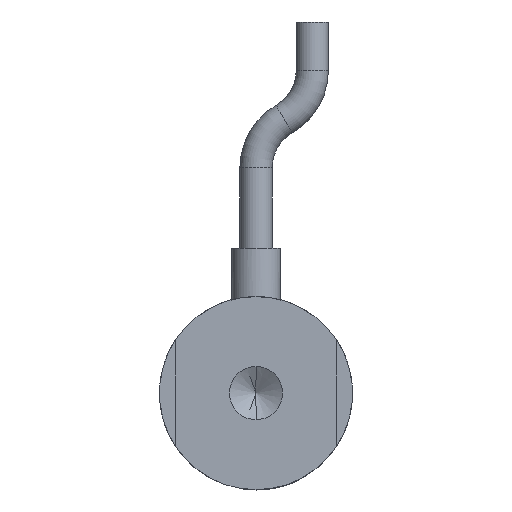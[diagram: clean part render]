
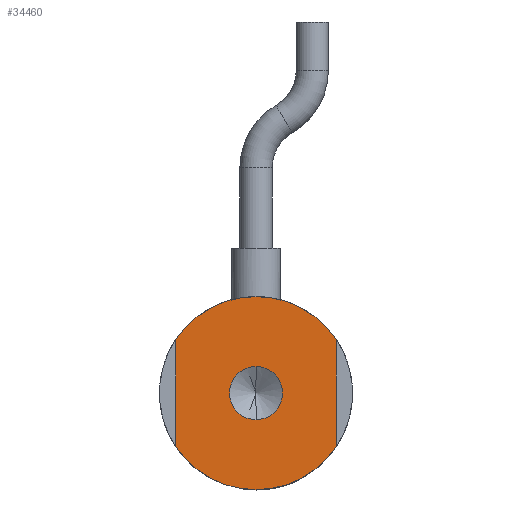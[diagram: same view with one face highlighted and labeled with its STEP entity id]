
A CAD part, front view. The second image highlights one B-rep face of the part: STEP entity #34460.
In plain terms, the highlighted planar face has unit normal (0, -1, 0).
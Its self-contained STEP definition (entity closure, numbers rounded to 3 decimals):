
#893 = ORIENTED_EDGE ( 'NONE', *, *, #31964, .F. ) ;
#1445 = CARTESIAN_POINT ( 'NONE',  ( 0., 0., -6. ) ) ;
#1521 = CARTESIAN_POINT ( 'NONE',  ( 0., 0., 0. ) ) ;
#1752 = EDGE_CURVE ( 'NONE', #18243, #19572, #14003, .T. ) ;
#3047 = VERTEX_POINT ( 'NONE', #14214 ) ;
#3214 = DIRECTION ( 'NONE',  ( 0., 0., 1. ) ) ;
#3215 = DIRECTION ( 'NONE',  ( 0., 1., 0. ) ) ;
#3275 = VERTEX_POINT ( 'NONE', #29543 ) ;
#4777 = DIRECTION ( 'NONE',  ( 0., 1., 0. ) ) ;
#4853 = CARTESIAN_POINT ( 'NONE',  ( 0., 0., 6. ) ) ;
#4996 = DIRECTION ( 'NONE',  ( 0., 0., 1. ) ) ;
#5213 = ORIENTED_EDGE ( 'NONE', *, *, #17615, .F. ) ;
#5245 = CARTESIAN_POINT ( 'NONE',  ( 0., 0., 0. ) ) ;
#5251 = CIRCLE ( 'NONE', #33373, 1.65 ) ;
#6257 = CIRCLE ( 'NONE', #9792, 6. ) ;
#7699 = LINE ( 'NONE', #44505, #16872 ) ;
#7896 = ORIENTED_EDGE ( 'NONE', *, *, #44739, .F. ) ;
#7986 = CARTESIAN_POINT ( 'NONE',  ( 0., 0., 0. ) ) ;
#8064 = CARTESIAN_POINT ( 'NONE',  ( 0., 0., 0. ) ) ;
#8200 = FACE_BOUND ( 'NONE', #36581, .T. ) ;
#8252 = AXIS2_PLACEMENT_3D ( 'NONE', #23835, #3215, #27284 ) ;
#8533 = CIRCLE ( 'NONE', #8252, 6. ) ;
#8723 = PLANE ( 'NONE',  #19308 ) ;
#8854 = CARTESIAN_POINT ( 'NONE',  ( 5., 0., 3.317 ) ) ;
#8911 = AXIS2_PLACEMENT_3D ( 'NONE', #7986, #32077, #11462 ) ;
#9792 = AXIS2_PLACEMENT_3D ( 'NONE', #1521, #25578, #4996 ) ;
#11078 = CIRCLE ( 'NONE', #8911, 6. ) ;
#11462 = DIRECTION ( 'NONE',  ( 0., 0., 1. ) ) ;
#11538 = DIRECTION ( 'NONE',  ( 0., 0., -1. ) ) ;
#12192 = DIRECTION ( 'NONE',  ( 0., 0., 1. ) ) ;
#14003 = CIRCLE ( 'NONE', #37281, 6. ) ;
#14214 = CARTESIAN_POINT ( 'NONE',  ( -5., 0., 3.317 ) ) ;
#15551 = CARTESIAN_POINT ( 'NONE',  ( 0., 0., 1.65 ) ) ;
#16299 = LINE ( 'NONE', #43951, #37894 ) ;
#16872 = VECTOR ( 'NONE', #3214, 1000. ) ;
#17177 = CARTESIAN_POINT ( 'NONE',  ( 0., 0., -1.65 ) ) ;
#17367 = FACE_OUTER_BOUND ( 'NONE', #32281, .T. ) ;
#17615 = EDGE_CURVE ( 'NONE', #19572, #3047, #7699, .T. ) ;
#18243 = VERTEX_POINT ( 'NONE', #1445 ) ;
#19181 = CARTESIAN_POINT ( 'NONE',  ( 0., 0., 0. ) ) ;
#19308 = AXIS2_PLACEMENT_3D ( 'NONE', #5245, #32173, #12192 ) ;
#19572 = VERTEX_POINT ( 'NONE', #33658 ) ;
#21576 = CIRCLE ( 'NONE', #38973, 1.65 ) ;
#22654 = DIRECTION ( 'NONE',  ( 0., 0., -1. ) ) ;
#23283 = DIRECTION ( 'NONE',  ( 0., 0., -1. ) ) ;
#23835 = CARTESIAN_POINT ( 'NONE',  ( 0., 0., 0. ) ) ;
#25341 = ORIENTED_EDGE ( 'NONE', *, *, #28231, .F. ) ;
#25391 = CARTESIAN_POINT ( 'NONE',  ( 0., 0., 0. ) ) ;
#25472 = VERTEX_POINT ( 'NONE', #4853 ) ;
#25578 = DIRECTION ( 'NONE',  ( 0., 1., 0. ) ) ;
#26849 = VERTEX_POINT ( 'NONE', #8854 ) ;
#27284 = DIRECTION ( 'NONE',  ( 0., 0., 1. ) ) ;
#28231 = EDGE_CURVE ( 'NONE', #36274, #32932, #5251, .T. ) ;
#28594 = ORIENTED_EDGE ( 'NONE', *, *, #34539, .F. ) ;
#28860 = DIRECTION ( 'NONE',  ( 0., 0., 1. ) ) ;
#29543 = CARTESIAN_POINT ( 'NONE',  ( 5., 0., -3.317 ) ) ;
#31487 = EDGE_CURVE ( 'NONE', #3047, #25472, #6257, .T. ) ;
#31964 = EDGE_CURVE ( 'NONE', #25472, #26849, #11078, .T. ) ;
#32077 = DIRECTION ( 'NONE',  ( 0., 1., 0. ) ) ;
#32141 = DIRECTION ( 'NONE',  ( 0., -1., 0. ) ) ;
#32143 = ORIENTED_EDGE ( 'NONE', *, *, #1752, .F. ) ;
#32173 = DIRECTION ( 'NONE',  ( 0., 1., 0. ) ) ;
#32281 = EDGE_LOOP ( 'NONE', ( #5213, #32143, #7896, #28594, #893, #32977 ) ) ;
#32932 = VERTEX_POINT ( 'NONE', #15551 ) ;
#32977 = ORIENTED_EDGE ( 'NONE', *, *, #31487, .F. ) ;
#33373 = AXIS2_PLACEMENT_3D ( 'NONE', #19181, #43317, #22654 ) ;
#33658 = CARTESIAN_POINT ( 'NONE',  ( -5., 0., -3.317 ) ) ;
#34460 = ADVANCED_FACE ( 'NONE', ( #8200, #17367 ), #8723, .F. ) ;
#34539 = EDGE_CURVE ( 'NONE', #26849, #3275, #16299, .T. ) ;
#36165 = ORIENTED_EDGE ( 'NONE', *, *, #36891, .F. ) ;
#36274 = VERTEX_POINT ( 'NONE', #17177 ) ;
#36581 = EDGE_LOOP ( 'NONE', ( #25341, #36165 ) ) ;
#36891 = EDGE_CURVE ( 'NONE', #32932, #36274, #21576, .T. ) ;
#37281 = AXIS2_PLACEMENT_3D ( 'NONE', #25391, #4777, #28860 ) ;
#37894 = VECTOR ( 'NONE', #23283, 1000. ) ;
#38973 = AXIS2_PLACEMENT_3D ( 'NONE', #8064, #32141, #11538 ) ;
#43317 = DIRECTION ( 'NONE',  ( 0., -1., 0. ) ) ;
#43951 = CARTESIAN_POINT ( 'NONE',  ( 5., 0., 0. ) ) ;
#44505 = CARTESIAN_POINT ( 'NONE',  ( -5., 0., 0. ) ) ;
#44739 = EDGE_CURVE ( 'NONE', #3275, #18243, #8533, .T. ) ;
